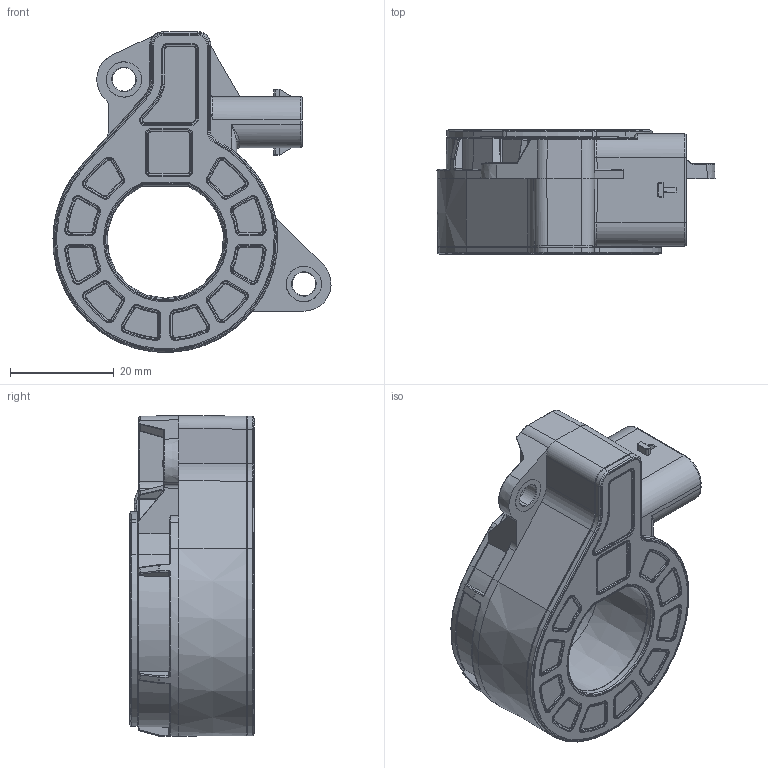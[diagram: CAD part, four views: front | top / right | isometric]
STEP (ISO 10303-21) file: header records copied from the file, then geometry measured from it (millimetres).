
FILE_DESCRIPTION(('Creo Elements/Direct Modeling STEP Export'),'2;1');
FILE_NAME('BBOX_Single_LEM8_261_264.stp','2022-12-12T16:42:21',(''),(''),'Creo Elements/Direct Modeling STEP processor for AP214 (Solid Model)','Creo Elements/Direct Modeling 20.1 10-Mar-2018 (C) Parametric Technology GmbH','');
FILE_SCHEMA(('AUTOMOTIVE_DESIGN { 1 0 10303 214 1 1 1 1 }'));
Length unit declared in the file: millimetre
Products named in the file (2): BBOX_Single_LEM8_261_264
Assembly tree (1 placements, depth 2):
  BBOX_Single_LEM8_261_264
    BBOX_Single_LEM8_261_264
Bounding box: 53.71 x 24 x 61.98 mm (x, y, z)
Surface area: 16980.8 mm2 (no closed solid volume)
Topology: 0 solids, 6 shells, 2211 faces, 5725 edges, 3582 vertices
Faces by surface type: plane 944, bspline 599, cylinder 347, cone 163, torus 144, extrusion 14
Entity records: 109389 total; most frequent: CARTESIAN_POINT 60265, ORIENTED_EDGE 11183, DIRECTION 7866, EDGE_CURVE 5723, VERTEX_POINT 3582, VECTOR 2902, LINE 2888, AXIS2_PLACEMENT_3D 2482
